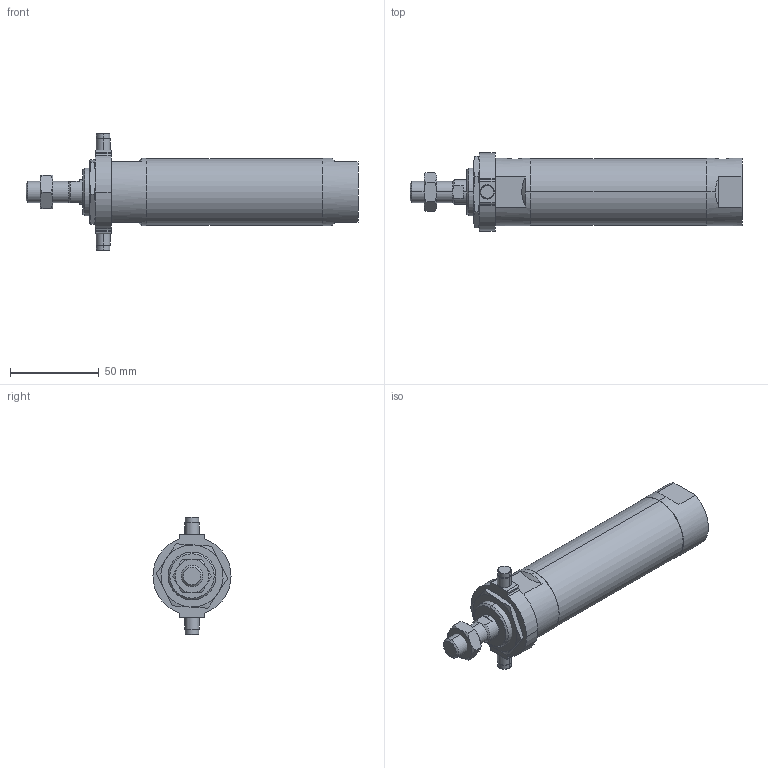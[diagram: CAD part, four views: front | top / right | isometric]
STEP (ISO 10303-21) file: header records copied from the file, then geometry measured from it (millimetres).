
FILE_DESCRIPTION (( 'STEP AP203' ), '1' );
FILE_NAME ('JGND2-32-50-T.STEP', '2016-08-04T02:48:58', ( '' ), ( '' ), 'SwSTEP 2.0', 'SolidWorks 2014', '' );
FILE_SCHEMA (( 'CONFIG_CONTROL_DESIGN' ));
Length unit declared in the file: millimetre
Products named in the file (5): J#2-32-50(P); JGND2-32-50-T; J#2-32-T
Assembly tree (4 placements, depth 2):
  JGND2-32-50-T
    J#2-32-50(P)
    (unnamed)
    (unnamed)
    J#2-32-T
Bounding box: 187 x 44 x 66 mm (x, y, z)
Volume: 177262.8 mm3; surface area: 29790.8 mm2
Topology: 4 solids, 4 shells, 128 faces, 293 edges, 177 vertices
Faces by surface type: plane 42, cylinder 41, torus 24, cone 21
Entity records: 4519 total; most frequent: CARTESIAN_POINT 1160, DIRECTION 614, ORIENTED_EDGE 578, EDGE_CURVE 289, AXIS2_PLACEMENT_3D 253, VERTEX_POINT 177, EDGE_LOOP 142, ADVANCED_FACE 128
